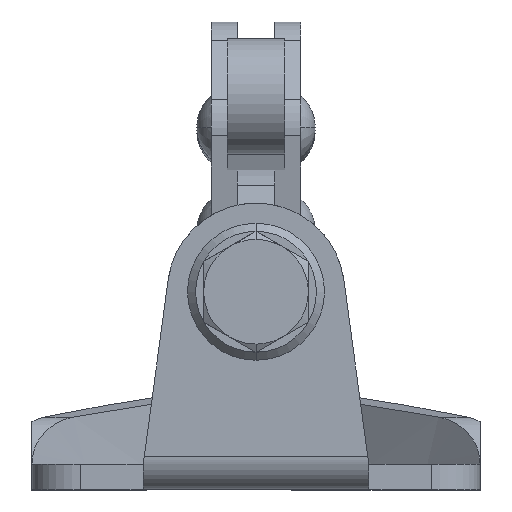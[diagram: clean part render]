
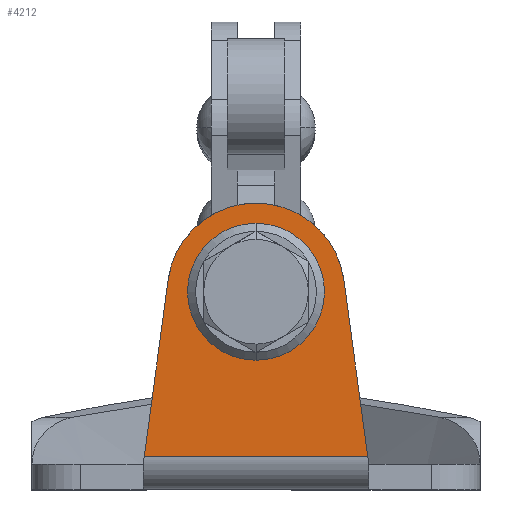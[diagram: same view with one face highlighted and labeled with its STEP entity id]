
A CAD part, left-side view. The second image highlights one B-rep face of the part: STEP entity #4212.
In plain terms, the highlighted planar face has unit normal (-1, 0, 0).
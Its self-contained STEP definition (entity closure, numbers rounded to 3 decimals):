
#4144=CARTESIAN_POINT('Line Origine',(94.99,0.,4.2)) ;
#4148=CARTESIAN_POINT('Cartesian Point',(94.99,13.865,4.2)) ;
#4150=CARTESIAN_POINT('Cartesian Point',(94.99,-13.865,4.2)) ;
#4174=CARTESIAN_POINT('Axis2P3D Location',(94.99,27.8,36.6)) ;
#4179=CARTESIAN_POINT('Line Origine',(94.99,-12.382,15.138)) ;
#4183=CARTESIAN_POINT('Cartesian Point',(94.99,-10.9,26.077)) ;
#4186=CARTESIAN_POINT('Axis2P3D Location',(94.99,0.,24.6)) ;
#4190=CARTESIAN_POINT('Cartesian Point',(94.99,-0.047,35.6)) ;
#4193=CARTESIAN_POINT('Axis2P3D Location',(94.99,0.,24.6)) ;
#4197=CARTESIAN_POINT('Cartesian Point',(94.99,10.9,26.077)) ;
#4200=CARTESIAN_POINT('Line Origine',(94.99,12.382,15.138)) ;
#4145=DIRECTION('Vector Direction',(0.,-1.,0.)) ;
#4175=DIRECTION('Axis2P3D Direction',(-1.,0.,0.)) ;
#4176=DIRECTION('Axis2P3D XDirection',(0.,1.,0.)) ;
#4180=DIRECTION('Vector Direction',(0.,0.134,0.991)) ;
#4187=DIRECTION('Axis2P3D Direction',(-1.,0.,0.)) ;
#4194=DIRECTION('Axis2P3D Direction',(-1.,0.,0.)) ;
#4201=DIRECTION('Vector Direction',(0.,-0.134,0.991)) ;
#4177=AXIS2_PLACEMENT_3D('Plane Axis2P3D',#4174,#4175,#4176) ;
#4188=AXIS2_PLACEMENT_3D('Circle Axis2P3D',#4186,#4187,$) ;
#4195=AXIS2_PLACEMENT_3D('Circle Axis2P3D',#4193,#4194,$) ;
#4206=ORIENTED_EDGE('Oriented Edge',*,*,#4152,.T.) ;
#4207=ORIENTED_EDGE('Oriented Edge',*,*,#4185,.T.) ;
#4208=ORIENTED_EDGE('Oriented Edge',*,*,#4192,.T.) ;
#4209=ORIENTED_EDGE('Oriented Edge',*,*,#4199,.T.) ;
#4210=ORIENTED_EDGE('Oriented Edge',*,*,#4204,.F.) ;
#4146=VECTOR('Line Direction',#4145,1.) ;
#4181=VECTOR('Line Direction',#4180,1.) ;
#4202=VECTOR('Line Direction',#4201,1.) ;
#4212=ADVANCED_FACE('',(#4211),#4178,.T.) ;
#4189=CIRCLE('generated circle',#4188,11.) ;
#4196=CIRCLE('generated circle',#4195,11.) ;
#4152=EDGE_CURVE('',#4149,#4151,#4147,.T.) ;
#4185=EDGE_CURVE('',#4151,#4184,#4182,.T.) ;
#4192=EDGE_CURVE('',#4184,#4191,#4189,.T.) ;
#4199=EDGE_CURVE('',#4191,#4198,#4196,.T.) ;
#4204=EDGE_CURVE('',#4149,#4198,#4203,.T.) ;
#4205=EDGE_LOOP('Oriented Loop',(#4206,#4207,#4208,#4209,#4210)) ;
#4211=FACE_OUTER_BOUND('Face Bound',#4205,.T.) ;
#4147=LINE('Line',#4144,#4146) ;
#4182=LINE('Line',#4179,#4181) ;
#4203=LINE('Line',#4200,#4202) ;
#4178=PLANE('Plane',#4177) ;
#4149=VERTEX_POINT('Vertex Point',#4148) ;
#4151=VERTEX_POINT('Vertex Point',#4150) ;
#4184=VERTEX_POINT('Vertex Point',#4183) ;
#4191=VERTEX_POINT('Vertex Point',#4190) ;
#4198=VERTEX_POINT('Vertex Point',#4197) ;
